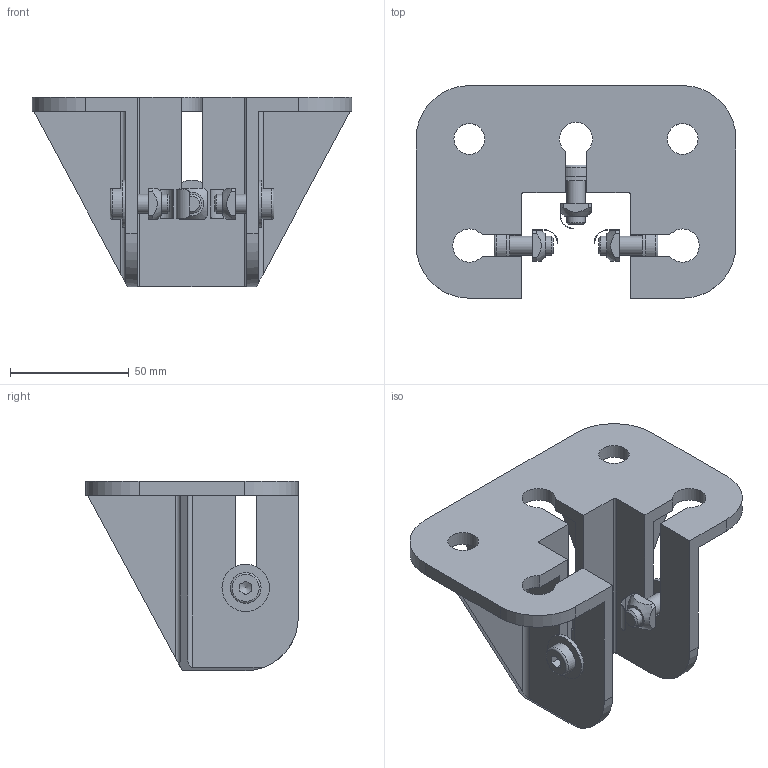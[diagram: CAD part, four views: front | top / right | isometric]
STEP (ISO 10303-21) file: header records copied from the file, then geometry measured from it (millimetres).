
FILE_DESCRIPTION((''),'2;1');
FILE_NAME('C:\Andys Backup Data\WEBSITE\DREAMWEAVER\MiniTec\Products\Floor_Mounting\CAD\Step\21.1738 FOOT 45 GD OPEN.stp','2013-02-28T15:07:35',('Admin'),(''),'Autodesk Inventor 2012','Autodesk Inventor 2012','');
FILE_SCHEMA(('AUTOMOTIVE_DESIGN { 1 0 10303 214 1 1 1 1 }'));
Length unit declared in the file: millimetre
Products named in the file (5): 21.1738 FOOT 45 GD OPEN; WASHER M8 ROUND O.D. 20mm; 21.1202  M8 x 20; 21.1351_2 M8 SQUARE NUT POS FXG
Assembly tree (10 placements, depth 2):
  21.1738 FOOT 45 GD OPEN
    21.1738 FOOT 45 GD OPEN
    WASHER M8 ROUND O.D. 20mm  x3
    21.1202  M8 x 20  x3
    21.1351_2 M8 SQUARE NUT POS FXG  x3
Bounding box: 135 x 89.7 x 80 mm (x, y, z)
Volume: 122513.9 mm3; surface area: 60370.2 mm2
Topology: 10 solids, 10 shells, 167 faces, 443 edges, 293 vertices
Faces by surface type: plane 106, cylinder 49, cone 9, torus 3
Full cylindrical faces by diameter (mm): 8 x6, 8.5 x3, 13 x5, 20 x3
Entity records: 3207 total; most frequent: CARTESIAN_POINT 589, DIRECTION 507, ORIENTED_EDGE 496, EDGE_CURVE 248, AXIS2_PLACEMENT_3D 171, VERTEX_POINT 171, VECTOR 165, LINE 165
